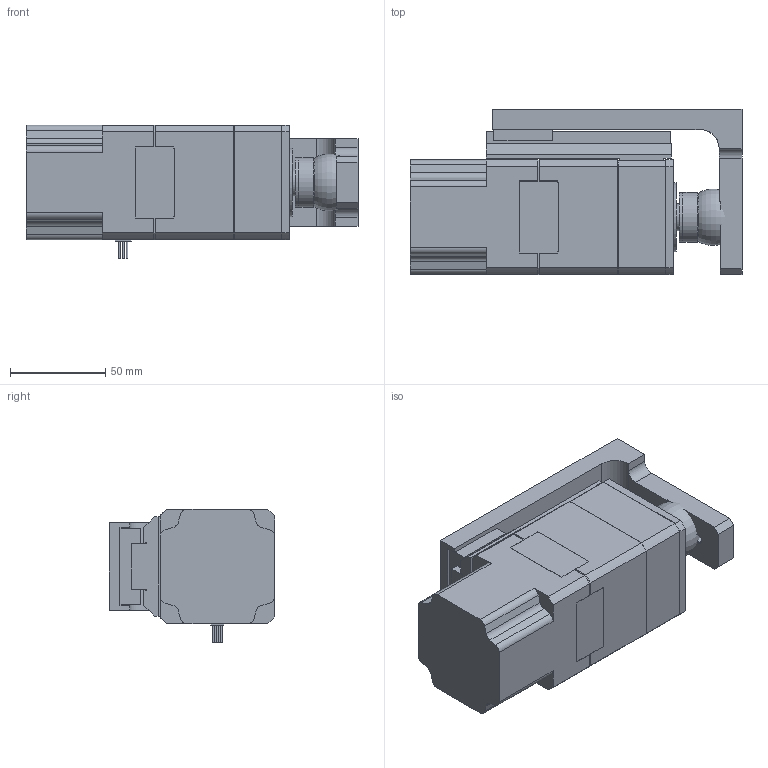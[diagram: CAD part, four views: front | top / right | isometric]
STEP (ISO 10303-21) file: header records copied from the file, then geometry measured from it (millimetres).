
FILE_DESCRIPTION(/* description */ ('STEP AP214'),/* implementation_level */ '2;1');
FILE_NAME(/* name */ 'DRLM60G-05B4PM-K(0)',/* time_stamp */ '2025-12-01T14:31:45+01:00',/* author */ ('License CC BY-ND 4.0'),/* organization */ ('CADENAS'),/* preprocessor_version */ 'ST-DEVELOPER v20',/* originating_system */ 'PARTsolutions',/* authorisation */ ' ');
FILE_SCHEMA (('AUTOMOTIVE_DESIGN {1 0 10303 214 3 1 1}'));
Length unit declared in the file: millimetre
Products named in the file (4): DRLM60G-05B4PM-K(0); DRLM60PG-05M(DC)-Body; DRLM60BG-05(P)-Rod; DRLM60-Guide
Assembly tree (3 placements, depth 2):
  DRLM60G-05B4PM-K(0)
    DRLM60PG-05M(DC)-Body
    DRLM60BG-05(P)-Rod
    DRLM60-Guide
Bounding box: 174 x 86.5 x 70 mm (x, y, z)
Volume: 613170.4 mm3; surface area: 88242.8 mm2
Topology: 3 solids, 3 shells, 401 faces, 1048 edges, 686 vertices
Faces by surface type: plane 269, cylinder 95, cone 23, torus 14
Full cylindrical faces by diameter (mm): 1 x7, 4.134 x10, 5.4 x2, 5.5 x6, 6.3 x4, 6.5 x4, 6.647 x1, 9 x1, 12.8 x1, 13 x1, 14 x3, 25.9 x1, 26 x2, 36 x1
Entity records: 11824 total; most frequent: CARTESIAN_POINT 2038, DIRECTION 1979, ORIENTED_EDGE 1902, EDGE_CURVE 951, LINE 733, VECTOR 733, VERTEX_POINT 682, AXIS2_PLACEMENT_3D 623
